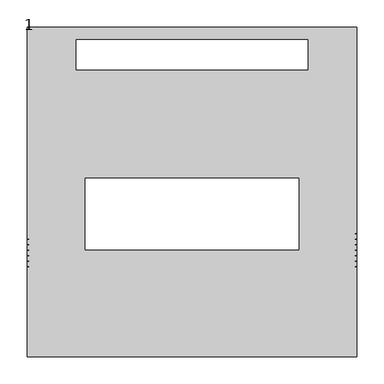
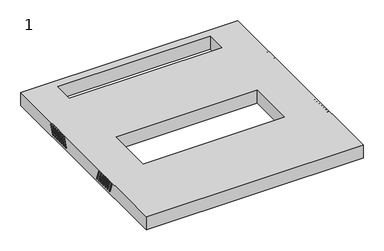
"""IFC4 building model written with IfcOpenShell, lengths in millimetres: proxy geometry, 1."""

from ifc_helpers import new_model, si_unit, frame, origin, place, context, project, spatial, polyline, circle_curve, source, transform, mapped, element, save
from ifc_brep_helpers import plane_surface, revolved_surface, advanced_brep


def proxy_1_6cf0ba76(model_context):
    return source(origin(), model_context, "Body", "AdvancedBrep", [
        advanced_brep(
        [(298.0, -135.8, 745.7479679), (298.0, -126.9074763, 721.3159597), (298.0, -123.1487058, 722.6840403), (298.0, -132.0412295, 747.1160484), (298.0, -125.8, 745.7479679), (298.0, -116.9074763, 721.3159597), (298.0, -113.1487058, 722.6840403), (298.0, -122.0412295, 747.1160484), (298.0, -115.8, 745.7479679), (298.0, -106.9074763, 721.3159597), (298.0, -103.1487058, 722.6840403), (298.0, -112.0412295, 747.1160484), (298.0, -105.8, 745.7479679), (298.0, -96.9074763, 721.3159597), (298.0, -93.1487058, 722.6840403), (298.0, -102.0412295, 747.1160484), (298.0, -95.8, 745.7479679), (298.0, -86.9074763, 721.3159597), (298.0, -83.1487058, 722.6840403), (298.0, -92.0412295, 747.1160484), (298.0, -85.8, 745.7479679), (298.0, -76.9074763, 721.3159597), (298.0, -73.1487058, 722.6840403), (298.0, -82.0412295, 747.1160484), (298.0, -75.8, 745.7479679), (298.0, -66.9074763, 721.3159597), (298.0, -63.1487058, 722.6840403), (298.0, -72.0412295, 747.1160484), (300.0, -132.0412295, 747.1160484), (300.0, -135.8, 745.7479679), (300.0, -123.1487058, 722.6840403), (300.0, -126.9074763, 721.3159597), (300.0, -122.0412295, 747.1160484), (300.0, -125.8, 745.7479679), (300.0, -113.1487058, 722.6840403), (300.0, -116.9074763, 721.3159597), (300.0, -112.0412295, 747.1160484), (300.0, -115.8, 745.7479679), (300.0, -103.1487058, 722.6840403), (300.0, -106.9074763, 721.3159597), (300.0, -102.0412295, 747.1160484), (300.0, -105.8, 745.7479679), (300.0, -93.1487058, 722.6840403), (300.0, -96.9074763, 721.3159597), (300.0, -92.0412295, 747.1160484), (300.0, -95.8, 745.7479679), (300.0, -83.1487058, 722.6840403), (300.0, -86.9074763, 721.3159597), (300.0, -82.0412295, 747.1160484), (300.0, -85.8, 745.7479679), (300.0, -73.1487058, 722.6840403), (300.0, -76.9074763, 721.3159597), (300.0, -72.0412295, 747.1160484), (300.0, -75.8, 745.7479679), (300.0, -63.1487058, 722.6840403), (300.0, -66.9074763, 721.3159597), (300.0, 300.0, 714.0), (300.0, -300.0, 714.0), (-300.0, -300.0, 714.0), (-300.0, 300.0, 714.0), (-211.0, 222.5, 714.0), (211.0, 222.5, 714.0), (211.0, 277.5, 714.0), (-211.0, 277.5, 714.0), (195.0, 25.0, 714.0), (-195.0, 25.0, 714.0), (-195.0, -105.0, 714.0), (195.0, -105.0, 714.0), (300.0, 300.0, 752.0), (-300.0, 300.0, 752.0), (-300.0, -300.0, 752.0), (300.0, -300.0, 752.0), (-211.0, 222.5, 752.0), (-211.0, 277.5, 752.0), (211.0, 277.5, 752.0), (211.0, 222.5, 752.0), (195.0, 25.0, 752.0), (195.0, -105.0, 752.0), (-195.0, -105.0, 752.0), (-195.0, 25.0, 752.0), (-300.0, -66.9074763, 721.3159597), (-300.0, -63.1487058, 722.6840403), (-300.0, -72.0412295, 747.1160484), (-300.0, -75.8, 745.7479679), (-300.0, -76.9074763, 721.3159597), (-300.0, -73.1487058, 722.6840403), (-300.0, -82.0412295, 747.1160484), (-300.0, -85.8, 745.7479679), (-300.0, -86.9074763, 721.3159597), (-300.0, -83.1487058, 722.6840403), (-300.0, -92.0412295, 747.1160484), (-300.0, -95.8, 745.7479679), (-300.0, -96.9074763, 721.3159597), (-300.0, -93.1487058, 722.6840403), (-300.0, -102.0412295, 747.1160484), (-300.0, -105.8, 745.7479679), (-300.0, -106.9074763, 721.3159597), (-300.0, -103.1487058, 722.6840403), (-300.0, -112.0412295, 747.1160484), (-300.0, -115.8, 745.7479679), (-300.0, -116.9074763, 721.3159597), (-300.0, -113.1487058, 722.6840403), (-300.0, -122.0412295, 747.1160484), (-300.0, -125.8, 745.7479679), (-300.0, -126.9074763, 721.3159597), (-300.0, -123.1487058, 722.6840403), (-300.0, -132.0412295, 747.1160484), (-300.0, -135.8, 745.7479679), (-300.0, 96.0, 745.7479679), (-300.0, 92.2412295, 747.1160484), (-300.0, 83.3487058, 722.6840403), (-300.0, 87.1074763, 721.3159597), (-300.0, 106.0, 745.7479679), (-300.0, 102.2412295, 747.1160484), (-300.0, 93.3487058, 722.6840403), (-300.0, 97.1074763, 721.3159597), (-300.0, 116.0, 745.7479679), (-300.0, 112.2412295, 747.1160484), (-300.0, 103.3487058, 722.6840403), (-300.0, 107.1074763, 721.3159597), (-300.0, 126.0, 745.7479679), (-300.0, 122.2412295, 747.1160484), (-300.0, 113.3487058, 722.6840403), (-300.0, 117.1074763, 721.3159597), (-300.0, 136.0, 745.7479679), (-300.0, 132.2412295, 747.1160484), (-300.0, 123.3487058, 722.6840403), (-300.0, 127.1074763, 721.3159597), (-300.0, 146.0, 745.7479679), (-300.0, 142.2412295, 747.1160484), (-300.0, 133.3487058, 722.6840403), (-300.0, 137.1074763, 721.3159597), (-300.0, 156.0, 745.7479679), (-300.0, 152.2412295, 747.1160484), (-300.0, 143.3487058, 722.6840403), (-300.0, 147.1074763, 721.3159597), (300.0, 152.2412295, 747.1160484), (300.0, 156.0, 745.7479679), (300.0, 147.1074763, 721.3159597), (300.0, 143.3487058, 722.6840403), (300.0, 142.2412295, 747.1160484), (300.0, 146.0, 745.7479679), (300.0, 137.1074763, 721.3159597), (300.0, 133.3487058, 722.6840403), (300.0, 132.2412295, 747.1160484), (300.0, 136.0, 745.7479679), (300.0, 127.1074763, 721.3159597), (300.0, 123.3487058, 722.6840403), (300.0, 122.2412295, 747.1160484), (300.0, 126.0, 745.7479679), (300.0, 117.1074763, 721.3159597), (300.0, 113.3487058, 722.6840403), (300.0, 112.2412295, 747.1160484), (300.0, 116.0, 745.7479679), (300.0, 107.1074763, 721.3159597), (300.0, 103.3487058, 722.6840403), (300.0, 102.2412295, 747.1160484), (300.0, 106.0, 745.7479679), (300.0, 97.1074763, 721.3159597), (300.0, 93.3487058, 722.6840403), (300.0, 92.2412295, 747.1160484), (300.0, 96.0, 745.7479679), (300.0, 87.1074763, 721.3159597), (300.0, 83.3487058, 722.6840403), (298.0, 156.0, 745.7479679), (298.0, 152.2412295, 747.1160484), (298.0, 143.3487058, 722.6840403), (298.0, 147.1074763, 721.3159597), (298.0, 146.0, 745.7479679), (298.0, 142.2412295, 747.1160484), (298.0, 133.3487058, 722.6840403), (298.0, 137.1074763, 721.3159597), (298.0, 136.0, 745.7479679), (298.0, 132.2412295, 747.1160484), (298.0, 123.3487058, 722.6840403), (298.0, 127.1074763, 721.3159597), (298.0, 126.0, 745.7479679), (298.0, 122.2412295, 747.1160484), (298.0, 113.3487058, 722.6840403), (298.0, 117.1074763, 721.3159597), (298.0, 116.0, 745.7479679), (298.0, 112.2412295, 747.1160484), (298.0, 103.3487058, 722.6840403), (298.0, 107.1074763, 721.3159597), (298.0, 106.0, 745.7479679), (298.0, 102.2412295, 747.1160484), (298.0, 93.3487058, 722.6840403), (298.0, 97.1074763, 721.3159597), (298.0, 96.0, 745.7479679), (298.0, 92.2412295, 747.1160484), (298.0, 83.3487058, 722.6840403), (298.0, 87.1074763, 721.3159597), (-298.0, -63.1487058, 722.6840403), (-298.0, -66.9074763, 721.3159597), (-298.0, -75.8, 745.7479679), (-298.0, -72.0412295, 747.1160484), (-298.0, -73.1487058, 722.6840403), (-298.0, -76.9074763, 721.3159597), (-298.0, -85.8, 745.7479679), (-298.0, -82.0412295, 747.1160484), (-298.0, -83.1487058, 722.6840403), (-298.0, -86.9074763, 721.3159597), (-298.0, -95.8, 745.7479679), (-298.0, -92.0412295, 747.1160484), (-298.0, -93.1487058, 722.6840403), (-298.0, -96.9074763, 721.3159597), (-298.0, -105.8, 745.7479679), (-298.0, -102.0412295, 747.1160484), (-298.0, -103.1487058, 722.6840403), (-298.0, -106.9074763, 721.3159597), (-298.0, -115.8, 745.7479679), (-298.0, -112.0412295, 747.1160484), (-298.0, -113.1487058, 722.6840403), (-298.0, -116.9074763, 721.3159597), (-298.0, -125.8, 745.7479679), (-298.0, -122.0412295, 747.1160484), (-298.0, -123.1487058, 722.6840403), (-298.0, -126.9074763, 721.3159597), (-298.0, -135.8, 745.7479679), (-298.0, -132.0412295, 747.1160484), (-298.0, 92.2412295, 747.1160484), (-298.0, 96.0, 745.7479679), (-298.0, 87.1074763, 721.3159597), (-298.0, 83.3487058, 722.6840403), (-298.0, 102.2412295, 747.1160484), (-298.0, 106.0, 745.7479679), (-298.0, 97.1074763, 721.3159597), (-298.0, 93.3487058, 722.6840403), (-298.0, 112.2412295, 747.1160484), (-298.0, 116.0, 745.7479679), (-298.0, 107.1074763, 721.3159597), (-298.0, 103.3487058, 722.6840403), (-298.0, 122.2412295, 747.1160484), (-298.0, 126.0, 745.7479679), (-298.0, 117.1074763, 721.3159597), (-298.0, 113.3487058, 722.6840403), (-298.0, 132.2412295, 747.1160484), (-298.0, 136.0, 745.7479679), (-298.0, 127.1074763, 721.3159597), (-298.0, 123.3487058, 722.6840403), (-298.0, 142.2412295, 747.1160484), (-298.0, 146.0, 745.7479679), (-298.0, 137.1074763, 721.3159597), (-298.0, 133.3487058, 722.6840403), (-298.0, 152.2412295, 747.1160484), (-298.0, 156.0, 745.7479679), (-298.0, 147.1074763, 721.3159597), (-298.0, 143.3487058, 722.6840403)],
        [
            (0, 1),
            (1, 2, circle_curve(frame((298.0, -125.028091, 722.0), z_axis=(1.0, 0.0, 0.0), x_axis=(0.0, -1.0, 0.0)), 2.0)),
            (2, 3),
            (3, 0, circle_curve(frame((298.0, -133.9206148, 746.4320081), z_axis=(1.0, 0.0, 0.0), x_axis=(0.0, -1.0, 0.0)), 2.0)),
            (4, 5),
            (5, 6, circle_curve(frame((298.0, -115.028091, 722.0), z_axis=(1.0, 0.0, 0.0), x_axis=(0.0, -1.0, 0.0)), 2.0)),
            (6, 7),
            (7, 4, circle_curve(frame((298.0, -123.9206148, 746.4320081), z_axis=(1.0, 0.0, 0.0), x_axis=(0.0, -1.0, 0.0)), 2.0)),
            (8, 9),
            (9, 10, circle_curve(frame((298.0, -105.028091, 722.0), z_axis=(1.0, 0.0, 0.0), x_axis=(0.0, -1.0, 0.0)), 2.0)),
            (10, 11),
            (11, 8, circle_curve(frame((298.0, -113.9206148, 746.4320081), z_axis=(1.0, 0.0, 0.0), x_axis=(0.0, -1.0, 0.0)), 2.0)),
            (12, 13),
            (13, 14, circle_curve(frame((298.0, -95.028091, 722.0), z_axis=(1.0, 0.0, 0.0), x_axis=(0.0, -1.0, 0.0)), 2.0)),
            (14, 15),
            (15, 12, circle_curve(frame((298.0, -103.9206148, 746.4320081), z_axis=(1.0, 0.0, 0.0), x_axis=(0.0, -1.0, 0.0)), 2.0)),
            (16, 17),
            (17, 18, circle_curve(frame((298.0, -85.028091, 722.0), z_axis=(1.0, 0.0, 0.0), x_axis=(0.0, -1.0, 0.0)), 2.0)),
            (18, 19),
            (19, 16, circle_curve(frame((298.0, -93.9206148, 746.4320081), z_axis=(1.0, 0.0, 0.0), x_axis=(0.0, -1.0, 0.0)), 2.0)),
            (20, 21),
            (21, 22, circle_curve(frame((298.0, -75.028091, 722.0), z_axis=(1.0, 0.0, 0.0), x_axis=(0.0, -1.0, 0.0)), 2.0)),
            (22, 23),
            (23, 20, circle_curve(frame((298.0, -83.9206148, 746.4320081), z_axis=(1.0, 0.0, 0.0), x_axis=(0.0, -1.0, 0.0)), 2.0)),
            (24, 25),
            (25, 26, circle_curve(frame((298.0, -65.028091, 722.0), z_axis=(1.0, 0.0, 0.0), x_axis=(0.0, -1.0, 0.0)), 2.0)),
            (26, 27),
            (27, 24, circle_curve(frame((298.0, -73.9206148, 746.4320081), z_axis=(1.0, 0.0, 0.0), x_axis=(0.0, -1.0, 0.0)), 2.0)),
            (3, 28),
            (28, 29, circle_curve(frame((300.0, -133.9206148, 746.4320081), z_axis=(1.0, 0.0, 0.0), x_axis=(0.0, -1.0, 0.0)), 2.0)),
            (29, 0),
            (2, 30),
            (30, 28),
            (1, 31),
            (31, 30, circle_curve(frame((300.0, -125.028091, 722.0), z_axis=(1.0, 0.0, 0.0), x_axis=(0.0, -1.0, 0.0)), 2.0)),
            (29, 31),
            (7, 32),
            (32, 33, circle_curve(frame((300.0, -123.9206148, 746.4320081), z_axis=(1.0, 0.0, 0.0), x_axis=(0.0, -1.0, 0.0)), 2.0)),
            (33, 4),
            (6, 34),
            (34, 32),
            (5, 35),
            (35, 34, circle_curve(frame((300.0, -115.028091, 722.0), z_axis=(1.0, 0.0, 0.0), x_axis=(0.0, -1.0, 0.0)), 2.0)),
            (33, 35),
            (11, 36),
            (36, 37, circle_curve(frame((300.0, -113.9206148, 746.4320081), z_axis=(1.0, 0.0, 0.0), x_axis=(0.0, -1.0, 0.0)), 2.0)),
            (37, 8),
            (10, 38),
            (38, 36),
            (9, 39),
            (39, 38, circle_curve(frame((300.0, -105.028091, 722.0), z_axis=(1.0, 0.0, 0.0), x_axis=(0.0, -1.0, 0.0)), 2.0)),
            (37, 39),
            (15, 40),
            (40, 41, circle_curve(frame((300.0, -103.9206148, 746.4320081), z_axis=(1.0, 0.0, 0.0), x_axis=(0.0, -1.0, 0.0)), 2.0)),
            (41, 12),
            (14, 42),
            (42, 40),
            (13, 43),
            (43, 42, circle_curve(frame((300.0, -95.028091, 722.0), z_axis=(1.0, 0.0, 0.0), x_axis=(0.0, -1.0, 0.0)), 2.0)),
            (41, 43),
            (19, 44),
            (44, 45, circle_curve(frame((300.0, -93.9206148, 746.4320081), z_axis=(1.0, 0.0, 0.0), x_axis=(0.0, -1.0, 0.0)), 2.0)),
            (45, 16),
            (18, 46),
            (46, 44),
            (17, 47),
            (47, 46, circle_curve(frame((300.0, -85.028091, 722.0), z_axis=(1.0, 0.0, 0.0), x_axis=(0.0, -1.0, 0.0)), 2.0)),
            (45, 47),
            (23, 48),
            (48, 49, circle_curve(frame((300.0, -83.9206148, 746.4320081), z_axis=(1.0, 0.0, 0.0), x_axis=(0.0, -1.0, 0.0)), 2.0)),
            (49, 20),
            (22, 50),
            (50, 48),
            (21, 51),
            (51, 50, circle_curve(frame((300.0, -75.028091, 722.0), z_axis=(1.0, 0.0, 0.0), x_axis=(0.0, -1.0, 0.0)), 2.0)),
            (49, 51),
            (27, 52),
            (52, 53, circle_curve(frame((300.0, -73.9206148, 746.4320081), z_axis=(1.0, 0.0, 0.0), x_axis=(0.0, -1.0, 0.0)), 2.0)),
            (53, 24),
            (26, 54),
            (54, 52),
            (25, 55),
            (55, 54, circle_curve(frame((300.0, -65.028091, 722.0), z_axis=(1.0, 0.0, 0.0), x_axis=(0.0, -1.0, 0.0)), 2.0)),
            (53, 55),
            (56, 57),
            (57, 58),
            (58, 59),
            (59, 56),
            (60, 61),
            (61, 62),
            (62, 63),
            (63, 60),
            (64, 65),
            (65, 66),
            (66, 67),
            (67, 64),
            (68, 69),
            (69, 70),
            (70, 71),
            (71, 68),
            (72, 73),
            (73, 74),
            (74, 75),
            (75, 72),
            (76, 77),
            (77, 78),
            (78, 79),
            (79, 76),
            (59, 69),
            (68, 56),
            (58, 70),
            (80, 81, circle_curve(frame((-300.0, -65.028091, 722.0), z_axis=(1.0, 0.0, 0.0), x_axis=(0.0, 1.0, 0.0)), 2.0)),
            (81, 82),
            (82, 83, circle_curve(frame((-300.0, -73.9206148, 746.4320081), z_axis=(1.0, 0.0, 0.0), x_axis=(0.0, 1.0, 0.0)), 2.0)),
            (83, 80),
            (84, 85, circle_curve(frame((-300.0, -75.028091, 722.0), z_axis=(1.0, 0.0, 0.0), x_axis=(0.0, 1.0, 0.0)), 2.0)),
            (85, 86),
            (86, 87, circle_curve(frame((-300.0, -83.9206148, 746.4320081), z_axis=(1.0, 0.0, 0.0), x_axis=(0.0, 1.0, 0.0)), 2.0)),
            (87, 84),
            (88, 89, circle_curve(frame((-300.0, -85.028091, 722.0), z_axis=(1.0, 0.0, 0.0), x_axis=(0.0, 1.0, 0.0)), 2.0)),
            (89, 90),
            (90, 91, circle_curve(frame((-300.0, -93.9206148, 746.4320081), z_axis=(1.0, 0.0, 0.0), x_axis=(0.0, 1.0, 0.0)), 2.0)),
            (91, 88),
            (92, 93, circle_curve(frame((-300.0, -95.028091, 722.0), z_axis=(1.0, 0.0, 0.0), x_axis=(0.0, 1.0, 0.0)), 2.0)),
            (93, 94),
            (94, 95, circle_curve(frame((-300.0, -103.9206148, 746.4320081), z_axis=(1.0, 0.0, 0.0), x_axis=(0.0, 1.0, 0.0)), 2.0)),
            (95, 92),
            (96, 97, circle_curve(frame((-300.0, -105.028091, 722.0), z_axis=(1.0, 0.0, 0.0), x_axis=(0.0, 1.0, 0.0)), 2.0)),
            (97, 98),
            (98, 99, circle_curve(frame((-300.0, -113.9206148, 746.4320081), z_axis=(1.0, 0.0, 0.0), x_axis=(0.0, 1.0, 0.0)), 2.0)),
            (99, 96),
            (100, 101, circle_curve(frame((-300.0, -115.028091, 722.0), z_axis=(1.0, 0.0, 0.0), x_axis=(0.0, 1.0, 0.0)), 2.0)),
            (101, 102),
            (102, 103, circle_curve(frame((-300.0, -123.9206148, 746.4320081), z_axis=(1.0, 0.0, 0.0), x_axis=(0.0, 1.0, 0.0)), 2.0)),
            (103, 100),
            (104, 105, circle_curve(frame((-300.0, -125.028091, 722.0), z_axis=(1.0, 0.0, 0.0), x_axis=(0.0, 1.0, 0.0)), 2.0)),
            (105, 106),
            (106, 107, circle_curve(frame((-300.0, -133.9206148, 746.4320081), z_axis=(1.0, 0.0, 0.0), x_axis=(0.0, 1.0, 0.0)), 2.0)),
            (107, 104),
            (108, 109, circle_curve(frame((-300.0, 94.1206148, 746.4320081), z_axis=(1.0, 0.0, 0.0), x_axis=(0.0, 1.0, 0.0)), 2.0)),
            (109, 110),
            (110, 111, circle_curve(frame((-300.0, 85.228091, 722.0), z_axis=(1.0, 0.0, 0.0), x_axis=(0.0, 1.0, 0.0)), 2.0)),
            (111, 108),
            (112, 113, circle_curve(frame((-300.0, 104.1206148, 746.4320081), z_axis=(1.0, 0.0, 0.0), x_axis=(0.0, 1.0, 0.0)), 2.0)),
            (113, 114),
            (114, 115, circle_curve(frame((-300.0, 95.228091, 722.0), z_axis=(1.0, 0.0, 0.0), x_axis=(0.0, 1.0, 0.0)), 2.0)),
            (115, 112),
            (116, 117, circle_curve(frame((-300.0, 114.1206148, 746.4320081), z_axis=(1.0, 0.0, 0.0), x_axis=(0.0, 1.0, 0.0)), 2.0)),
            (117, 118),
            (118, 119, circle_curve(frame((-300.0, 105.228091, 722.0), z_axis=(1.0, 0.0, 0.0), x_axis=(0.0, 1.0, 0.0)), 2.0)),
            (119, 116),
            (120, 121, circle_curve(frame((-300.0, 124.1206148, 746.4320081), z_axis=(1.0, 0.0, 0.0), x_axis=(0.0, 1.0, 0.0)), 2.0)),
            (121, 122),
            (122, 123, circle_curve(frame((-300.0, 115.228091, 722.0), z_axis=(1.0, 0.0, 0.0), x_axis=(0.0, 1.0, 0.0)), 2.0)),
            (123, 120),
            (124, 125, circle_curve(frame((-300.0, 134.1206148, 746.4320081), z_axis=(1.0, 0.0, 0.0), x_axis=(0.0, 1.0, 0.0)), 2.0)),
            (125, 126),
            (126, 127, circle_curve(frame((-300.0, 125.228091, 722.0), z_axis=(1.0, 0.0, 0.0), x_axis=(0.0, 1.0, 0.0)), 2.0)),
            (127, 124),
            (128, 129, circle_curve(frame((-300.0, 144.1206148, 746.4320081), z_axis=(1.0, 0.0, 0.0), x_axis=(0.0, 1.0, 0.0)), 2.0)),
            (129, 130),
            (130, 131, circle_curve(frame((-300.0, 135.228091, 722.0), z_axis=(1.0, 0.0, 0.0), x_axis=(0.0, 1.0, 0.0)), 2.0)),
            (131, 128),
            (132, 133, circle_curve(frame((-300.0, 154.1206148, 746.4320081), z_axis=(1.0, 0.0, 0.0), x_axis=(0.0, 1.0, 0.0)), 2.0)),
            (133, 134),
            (134, 135, circle_curve(frame((-300.0, 145.228091, 722.0), z_axis=(1.0, 0.0, 0.0), x_axis=(0.0, 1.0, 0.0)), 2.0)),
            (135, 132),
            (57, 71),
            (136, 137, circle_curve(frame((300.0, 154.1206148, 746.4320081), z_axis=(-1.0, 0.0, 0.0), x_axis=(0.0, 1.0, 0.0)), 2.0)),
            (137, 138),
            (138, 139, circle_curve(frame((300.0, 145.228091, 722.0), z_axis=(-1.0, 0.0, 0.0), x_axis=(0.0, 1.0, 0.0)), 2.0)),
            (139, 136),
            (140, 141, circle_curve(frame((300.0, 144.1206148, 746.4320081), z_axis=(-1.0, 0.0, 0.0), x_axis=(0.0, 1.0, 0.0)), 2.0)),
            (141, 142),
            (142, 143, circle_curve(frame((300.0, 135.228091, 722.0), z_axis=(-1.0, 0.0, 0.0), x_axis=(0.0, 1.0, 0.0)), 2.0)),
            (143, 140),
            (144, 145, circle_curve(frame((300.0, 134.1206148, 746.4320081), z_axis=(-1.0, 0.0, 0.0), x_axis=(0.0, 1.0, 0.0)), 2.0)),
            (145, 146),
            (146, 147, circle_curve(frame((300.0, 125.228091, 722.0), z_axis=(-1.0, 0.0, 0.0), x_axis=(0.0, 1.0, 0.0)), 2.0)),
            (147, 144),
            (148, 149, circle_curve(frame((300.0, 124.1206148, 746.4320081), z_axis=(-1.0, 0.0, 0.0), x_axis=(0.0, 1.0, 0.0)), 2.0)),
            (149, 150),
            (150, 151, circle_curve(frame((300.0, 115.228091, 722.0), z_axis=(-1.0, 0.0, 0.0), x_axis=(0.0, 1.0, 0.0)), 2.0)),
            (151, 148),
            (152, 153, circle_curve(frame((300.0, 114.1206148, 746.4320081), z_axis=(-1.0, 0.0, 0.0), x_axis=(0.0, 1.0, 0.0)), 2.0)),
            (153, 154),
            (154, 155, circle_curve(frame((300.0, 105.228091, 722.0), z_axis=(-1.0, 0.0, 0.0), x_axis=(0.0, 1.0, 0.0)), 2.0)),
            (155, 152),
            (156, 157, circle_curve(frame((300.0, 104.1206148, 746.4320081), z_axis=(-1.0, 0.0, 0.0), x_axis=(0.0, 1.0, 0.0)), 2.0)),
            (157, 158),
            (158, 159, circle_curve(frame((300.0, 95.228091, 722.0), z_axis=(-1.0, 0.0, 0.0), x_axis=(0.0, 1.0, 0.0)), 2.0)),
            (159, 156),
            (160, 161, circle_curve(frame((300.0, 94.1206148, 746.4320081), z_axis=(-1.0, 0.0, 0.0), x_axis=(0.0, 1.0, 0.0)), 2.0)),
            (161, 162),
            (162, 163, circle_curve(frame((300.0, 85.228091, 722.0), z_axis=(-1.0, 0.0, 0.0), x_axis=(0.0, 1.0, 0.0)), 2.0)),
            (163, 160),
            (63, 73),
            (72, 60),
            (62, 74),
            (61, 75),
            (67, 77),
            (76, 64),
            (66, 78),
            (65, 79),
            (164, 165, circle_curve(frame((298.0, 154.1206148, 746.4320081), z_axis=(1.0, 0.0, 0.0), x_axis=(0.0, 1.0, 0.0)), 2.0)),
            (165, 166),
            (166, 167, circle_curve(frame((298.0, 145.228091, 722.0), z_axis=(1.0, 0.0, 0.0), x_axis=(0.0, 1.0, 0.0)), 2.0)),
            (167, 164),
            (168, 169, circle_curve(frame((298.0, 144.1206148, 746.4320081), z_axis=(1.0, 0.0, 0.0), x_axis=(0.0, 1.0, 0.0)), 2.0)),
            (169, 170),
            (170, 171, circle_curve(frame((298.0, 135.228091, 722.0), z_axis=(1.0, 0.0, 0.0), x_axis=(0.0, 1.0, 0.0)), 2.0)),
            (171, 168),
            (172, 173, circle_curve(frame((298.0, 134.1206148, 746.4320081), z_axis=(1.0, 0.0, 0.0), x_axis=(0.0, 1.0, 0.0)), 2.0)),
            (173, 174),
            (174, 175, circle_curve(frame((298.0, 125.228091, 722.0), z_axis=(1.0, 0.0, 0.0), x_axis=(0.0, 1.0, 0.0)), 2.0)),
            (175, 172),
            (176, 177, circle_curve(frame((298.0, 124.1206148, 746.4320081), z_axis=(1.0, 0.0, 0.0), x_axis=(0.0, 1.0, 0.0)), 2.0)),
            (177, 178),
            (178, 179, circle_curve(frame((298.0, 115.228091, 722.0), z_axis=(1.0, 0.0, 0.0), x_axis=(0.0, 1.0, 0.0)), 2.0)),
            (179, 176),
            (180, 181, circle_curve(frame((298.0, 114.1206148, 746.4320081), z_axis=(1.0, 0.0, 0.0), x_axis=(0.0, 1.0, 0.0)), 2.0)),
            (181, 182),
            (182, 183, circle_curve(frame((298.0, 105.228091, 722.0), z_axis=(1.0, 0.0, 0.0), x_axis=(0.0, 1.0, 0.0)), 2.0)),
            (183, 180),
            (184, 185, circle_curve(frame((298.0, 104.1206148, 746.4320081), z_axis=(1.0, 0.0, 0.0), x_axis=(0.0, 1.0, 0.0)), 2.0)),
            (185, 186),
            (186, 187, circle_curve(frame((298.0, 95.228091, 722.0), z_axis=(1.0, 0.0, 0.0), x_axis=(0.0, 1.0, 0.0)), 2.0)),
            (187, 184),
            (188, 189, circle_curve(frame((298.0, 94.1206148, 746.4320081), z_axis=(1.0, 0.0, 0.0), x_axis=(0.0, 1.0, 0.0)), 2.0)),
            (189, 190),
            (190, 191, circle_curve(frame((298.0, 85.228091, 722.0), z_axis=(1.0, 0.0, 0.0), x_axis=(0.0, 1.0, 0.0)), 2.0)),
            (191, 188),
            (164, 137),
            (136, 165),
            (139, 166),
            (138, 167),
            (168, 141),
            (140, 169),
            (143, 170),
            (142, 171),
            (172, 145),
            (144, 173),
            (147, 174),
            (146, 175),
            (176, 149),
            (148, 177),
            (151, 178),
            (150, 179),
            (180, 153),
            (152, 181),
            (155, 182),
            (154, 183),
            (184, 157),
            (156, 185),
            (159, 186),
            (158, 187),
            (188, 161),
            (160, 189),
            (163, 190),
            (162, 191),
            (192, 193, circle_curve(frame((-298.0, -65.028091, 722.0), z_axis=(-1.0, 0.0, 0.0), x_axis=(0.0, 1.0, 0.0)), 2.0)),
            (193, 194),
            (194, 195, circle_curve(frame((-298.0, -73.9206148, 746.4320081), z_axis=(-1.0, 0.0, 0.0), x_axis=(0.0, 1.0, 0.0)), 2.0)),
            (195, 192),
            (196, 197, circle_curve(frame((-298.0, -75.028091, 722.0), z_axis=(-1.0, 0.0, 0.0), x_axis=(0.0, 1.0, 0.0)), 2.0)),
            (197, 198),
            (198, 199, circle_curve(frame((-298.0, -83.9206148, 746.4320081), z_axis=(-1.0, 0.0, 0.0), x_axis=(0.0, 1.0, 0.0)), 2.0)),
            (199, 196),
            (200, 201, circle_curve(frame((-298.0, -85.028091, 722.0), z_axis=(-1.0, 0.0, 0.0), x_axis=(0.0, 1.0, 0.0)), 2.0)),
            (201, 202),
            (202, 203, circle_curve(frame((-298.0, -93.9206148, 746.4320081), z_axis=(-1.0, 0.0, 0.0), x_axis=(0.0, 1.0, 0.0)), 2.0)),
            (203, 200),
            (204, 205, circle_curve(frame((-298.0, -95.028091, 722.0), z_axis=(-1.0, 0.0, 0.0), x_axis=(0.0, 1.0, 0.0)), 2.0)),
            (205, 206),
            (206, 207, circle_curve(frame((-298.0, -103.9206148, 746.4320081), z_axis=(-1.0, 0.0, 0.0), x_axis=(0.0, 1.0, 0.0)), 2.0)),
            (207, 204),
            (208, 209, circle_curve(frame((-298.0, -105.028091, 722.0), z_axis=(-1.0, 0.0, 0.0), x_axis=(0.0, 1.0, 0.0)), 2.0)),
            (209, 210),
            (210, 211, circle_curve(frame((-298.0, -113.9206148, 746.4320081), z_axis=(-1.0, 0.0, 0.0), x_axis=(0.0, 1.0, 0.0)), 2.0)),
            (211, 208),
            (212, 213, circle_curve(frame((-298.0, -115.028091, 722.0), z_axis=(-1.0, 0.0, 0.0), x_axis=(0.0, 1.0, 0.0)), 2.0)),
            (213, 214),
            (214, 215, circle_curve(frame((-298.0, -123.9206148, 746.4320081), z_axis=(-1.0, 0.0, 0.0), x_axis=(0.0, 1.0, 0.0)), 2.0)),
            (215, 212),
            (216, 217, circle_curve(frame((-298.0, -125.028091, 722.0), z_axis=(-1.0, 0.0, 0.0), x_axis=(0.0, 1.0, 0.0)), 2.0)),
            (217, 218),
            (218, 219, circle_curve(frame((-298.0, -133.9206148, 746.4320081), z_axis=(-1.0, 0.0, 0.0), x_axis=(0.0, 1.0, 0.0)), 2.0)),
            (219, 216),
            (192, 81),
            (80, 193),
            (83, 194),
            (82, 195),
            (196, 85),
            (84, 197),
            (87, 198),
            (86, 199),
            (200, 89),
            (88, 201),
            (91, 202),
            (90, 203),
            (204, 93),
            (92, 205),
            (95, 206),
            (94, 207),
            (208, 97),
            (96, 209),
            (99, 210),
            (98, 211),
            (212, 101),
            (100, 213),
            (103, 214),
            (102, 215),
            (216, 105),
            (104, 217),
            (107, 218),
            (106, 219),
            (220, 221, circle_curve(frame((-298.0, 94.1206148, 746.4320081), z_axis=(-1.0, 0.0, 0.0), x_axis=(0.0, 1.0, 0.0)), 2.0)),
            (221, 222),
            (222, 223, circle_curve(frame((-298.0, 85.228091, 722.0), z_axis=(-1.0, 0.0, 0.0), x_axis=(0.0, 1.0, 0.0)), 2.0)),
            (223, 220),
            (224, 225, circle_curve(frame((-298.0, 104.1206148, 746.4320081), z_axis=(-1.0, 0.0, 0.0), x_axis=(0.0, 1.0, 0.0)), 2.0)),
            (225, 226),
            (226, 227, circle_curve(frame((-298.0, 95.228091, 722.0), z_axis=(-1.0, 0.0, 0.0), x_axis=(0.0, 1.0, 0.0)), 2.0)),
            (227, 224),
            (228, 229, circle_curve(frame((-298.0, 114.1206148, 746.4320081), z_axis=(-1.0, 0.0, 0.0), x_axis=(0.0, 1.0, 0.0)), 2.0)),
            (229, 230),
            (230, 231, circle_curve(frame((-298.0, 105.228091, 722.0), z_axis=(-1.0, 0.0, 0.0), x_axis=(0.0, 1.0, 0.0)), 2.0)),
            (231, 228),
            (232, 233, circle_curve(frame((-298.0, 124.1206148, 746.4320081), z_axis=(-1.0, 0.0, 0.0), x_axis=(0.0, 1.0, 0.0)), 2.0)),
            (233, 234),
            (234, 235, circle_curve(frame((-298.0, 115.228091, 722.0), z_axis=(-1.0, 0.0, 0.0), x_axis=(0.0, 1.0, 0.0)), 2.0)),
            (235, 232),
            (236, 237, circle_curve(frame((-298.0, 134.1206148, 746.4320081), z_axis=(-1.0, 0.0, 0.0), x_axis=(0.0, 1.0, 0.0)), 2.0)),
            (237, 238),
            (238, 239, circle_curve(frame((-298.0, 125.228091, 722.0), z_axis=(-1.0, 0.0, 0.0), x_axis=(0.0, 1.0, 0.0)), 2.0)),
            (239, 236),
            (240, 241, circle_curve(frame((-298.0, 144.1206148, 746.4320081), z_axis=(-1.0, 0.0, 0.0), x_axis=(0.0, 1.0, 0.0)), 2.0)),
            (241, 242),
            (242, 243, circle_curve(frame((-298.0, 135.228091, 722.0), z_axis=(-1.0, 0.0, 0.0), x_axis=(0.0, 1.0, 0.0)), 2.0)),
            (243, 240),
            (244, 245, circle_curve(frame((-298.0, 154.1206148, 746.4320081), z_axis=(-1.0, 0.0, 0.0), x_axis=(0.0, 1.0, 0.0)), 2.0)),
            (245, 246),
            (246, 247, circle_curve(frame((-298.0, 145.228091, 722.0), z_axis=(-1.0, 0.0, 0.0), x_axis=(0.0, 1.0, 0.0)), 2.0)),
            (247, 244),
            (220, 109),
            (108, 221),
            (111, 222),
            (110, 223),
            (224, 113),
            (112, 225),
            (115, 226),
            (114, 227),
            (228, 117),
            (116, 229),
            (119, 230),
            (118, 231),
            (232, 121),
            (120, 233),
            (123, 234),
            (122, 235),
            (236, 125),
            (124, 237),
            (127, 238),
            (126, 239),
            (240, 129),
            (128, 241),
            (131, 242),
            (130, 243),
            (244, 133),
            (132, 245),
            (135, 246),
            (134, 247),
        ],
        [
            plane_surface(frame((298.0, -126.9074763, 721.3159597), z_axis=(1.0000000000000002, 0.0, 0.0), x_axis=(0.0, -0.3420201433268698, 0.9396926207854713))),
            revolved_surface(polyline([(300.0, -135.9206148, 746.4320081), (298.0, -135.9206148, 746.4320081)]), (298.0, -133.9206148, 746.4320081), (1.0, 0.0, 0.0)),
            plane_surface(frame((300.0, -123.1487058, 722.6840403), z_axis=(0.0, -0.9396926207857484, -0.3420201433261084), x_axis=(-1.0, 0.0, 0.0))),
            revolved_surface(polyline([(300.0, -127.028091, 722.0), (298.0, -127.028091, 722.0)]), (298.0, -125.028091, 722.0), (1.0, 0.0, 0.0)),
            plane_surface(frame((300.0, -135.8, 745.7479679), z_axis=(0.0, 0.9396926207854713, 0.3420201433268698), x_axis=(-1.0, 0.0, 0.0))),
            revolved_surface(polyline([(300.0, -125.9206148, 746.4320081), (298.0, -125.9206148, 746.4320081)]), (300.0, -123.9206148, 746.4320081), (1.0, 0.0, 0.0)),
            plane_surface(frame((300.0, -113.1487058, 722.6840403), z_axis=(0.0, -0.9396926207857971, -0.3420201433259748), x_axis=(-1.0, 0.0, 0.0))),
            revolved_surface(polyline([(300.0, -117.028091, 722.0), (298.0, -117.028091, 722.0)]), (300.0, -115.028091, 722.0), (1.0, 0.0, 0.0)),
            plane_surface(frame((300.0, -125.8, 745.7479679), z_axis=(0.0, 0.9396926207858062, 0.34202014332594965), x_axis=(-1.0, 0.0, 0.0))),
            revolved_surface(polyline([(300.0, -115.9206148, 746.4320081), (298.0, -115.9206148, 746.4320081)]), (300.0, -113.9206148, 746.4320081), (1.0, 0.0, 0.0)),
            plane_surface(frame((300.0, -103.1487058, 722.6840403), z_axis=(0.0, -0.9396926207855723, -0.3420201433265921), x_axis=(-1.0, 0.0, 0.0))),
            revolved_surface(polyline([(300.0, -107.028091, 722.0), (298.0, -107.028091, 722.0)]), (300.0, -105.028091, 722.0), (1.0, 0.0, 0.0)),
            plane_surface(frame((300.0, -115.8, 745.7479679), z_axis=(0.0, 0.9396926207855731, 0.3420201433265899), x_axis=(-1.0, 0.0, 0.0))),
            revolved_surface(polyline([(300.0, -105.9206148, 746.4320081), (298.0, -105.9206148, 746.4320081)]), (300.0, -103.9206148, 746.4320081), (1.0, 0.0, 0.0)),
            plane_surface(frame((300.0, -93.1487058, 722.6840403), z_axis=(0.0, -0.9396926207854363, -0.34202014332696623), x_axis=(-1.0, 0.0, 0.0))),
            revolved_surface(polyline([(300.0, -97.028091, 722.0), (298.0, -97.028091, 722.0)]), (300.0, -95.028091, 722.0), (1.0, 0.0, 0.0)),
            plane_surface(frame((300.0, -105.8, 745.7479679), z_axis=(0.0, 0.9396926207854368, 0.34202014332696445), x_axis=(-1.0, 0.0, 0.0))),
            revolved_surface(polyline([(300.0, -95.9206148, 746.4320081), (298.0, -95.9206148, 746.4320081)]), (300.0, -93.9206148, 746.4320081), (1.0, 0.0, 0.0)),
            plane_surface(frame((300.0, -83.1487058, 722.6840403), z_axis=(0.0, -0.9396926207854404, -0.3420201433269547), x_axis=(-1.0, 0.0, 0.0))),
            revolved_surface(polyline([(300.0, -87.028091, 722.0), (298.0, -87.028091, 722.0)]), (300.0, -85.028091, 722.0), (1.0, 0.0, 0.0)),
            plane_surface(frame((300.0, -95.8, 745.7479679), z_axis=(0.0, 0.9396926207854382, 0.3420201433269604), x_axis=(-1.0, 0.0, 0.0))),
            revolved_surface(polyline([(300.0, -85.9206148, 746.4320081), (298.0, -85.9206148, 746.4320081)]), (300.0, -83.9206148, 746.4320081), (1.0, 0.0, 0.0)),
            plane_surface(frame((300.0, -73.1487058, 722.6840403), z_axis=(0.0, -0.9396926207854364, -0.3420201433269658), x_axis=(-1.0, 0.0, 0.0))),
            revolved_surface(polyline([(300.0, -77.028091, 722.0), (298.0, -77.028091, 722.0)]), (300.0, -75.028091, 722.0), (1.0, 0.0, 0.0)),
            plane_surface(frame((300.0, -85.8, 745.7479679), z_axis=(0.0, 0.9396926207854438, 0.3420201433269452), x_axis=(-1.0, 0.0, 0.0))),
            revolved_surface(polyline([(300.0, -75.9206148, 746.4320081), (298.0, -75.9206148, 746.4320081)]), (300.0, -73.9206148, 746.4320081), (1.0, 0.0, 0.0)),
            plane_surface(frame((300.0, -63.1487058, 722.6840403), z_axis=(0.0, -0.9396926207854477, -0.3420201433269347), x_axis=(-1.0, 0.0, 0.0))),
            revolved_surface(polyline([(300.0, -67.028091, 722.0), (298.0, -67.028091, 722.0)]), (300.0, -65.028091, 722.0), (1.0, 0.0, 0.0)),
            plane_surface(frame((300.0, -75.8, 745.7479679), z_axis=(0.0, 0.9396926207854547, 0.3420201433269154), x_axis=(-1.0, 0.0, 0.0))),
            plane_surface(frame((-300.0, 300.0, 714.0), z_axis=(0.0, 0.0, -1.0), x_axis=(1.0, 0.0, 0.0))),
            plane_surface(frame((-300.0, 300.0, 752.0), z_axis=(0.0, 0.0, 1.0), x_axis=(-1.0, 0.0, 0.0))),
            plane_surface(frame((300.0, 300.0, 752.0), z_axis=(0.0, 1.0, 0.0), x_axis=(0.0, 0.0, -1.0))),
            plane_surface(frame((-300.0, 300.0, 752.0), z_axis=(-1.0, 0.0, 0.0), x_axis=(0.0, 0.0, -1.0))),
            plane_surface(frame((-300.0, -300.0, 752.0), z_axis=(0.0, -1.0, 0.0), x_axis=(0.0, 0.0, -1.0))),
            plane_surface(frame((300.0, -300.0, 752.0), z_axis=(1.0, 0.0, 0.0), x_axis=(0.0, 0.0, -1.0))),
            plane_surface(frame((-211.0, 222.5, 752.0), z_axis=(1.0, 0.0, 0.0), x_axis=(0.0, 0.0, -1.0))),
            plane_surface(frame((-211.0, 277.5, 752.0), z_axis=(0.0, -1.0, 0.0), x_axis=(0.0, 0.0, -1.0))),
            plane_surface(frame((211.0, 277.5, 752.0), z_axis=(-1.0, 0.0, 0.0), x_axis=(0.0, 0.0, -1.0))),
            plane_surface(frame((211.0, 222.5, 752.0), z_axis=(0.0, 1.0, 0.0), x_axis=(0.0, 0.0, -1.0))),
            plane_surface(frame((195.0, 25.0, 752.0), z_axis=(-1.0, 0.0, 0.0), x_axis=(0.0, 0.0, -1.0))),
            plane_surface(frame((195.0, -105.0, 752.0), z_axis=(0.0, 1.0, 0.0), x_axis=(0.0, 0.0, -1.0))),
            plane_surface(frame((-195.0, -105.0, 752.0), z_axis=(1.0, 0.0, 0.0), x_axis=(0.0, 0.0, -1.0))),
            plane_surface(frame((-195.0, 25.0, 752.0), z_axis=(0.0, -1.0, 0.0), x_axis=(0.0, 0.0, -1.0))),
            plane_surface(frame((298.0, 156.1206148, 746.4320081), z_axis=(1.0, 0.0, 0.0), x_axis=(0.0, 0.0, -1.0))),
            revolved_surface(polyline([(300.0, 156.1206148, 746.4320081), (298.0, 156.1206148, 746.4320081)]), (298.0, 154.1206148, 746.4320081), (1.0, 0.0, 0.0)),
            plane_surface(frame((300.0, 152.2412295, 747.1160484), z_axis=(0.0, 0.9396926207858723, -0.34202014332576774), x_axis=(-1.0, 0.0, 0.0))),
            revolved_surface(polyline([(300.0, 147.228091, 722.0), (298.0, 147.228091, 722.0)]), (298.0, 145.228091, 722.0), (1.0, 0.0, 0.0)),
            plane_surface(frame((300.0, 147.1074763, 721.3159597), z_axis=(0.0, -0.9396926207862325, 0.3420201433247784), x_axis=(-1.0, 0.0, 0.0))),
            revolved_surface(polyline([(300.0, 146.1206148, 746.4320081), (298.0, 146.1206148, 746.4320081)]), (300.0, 144.1206148, 746.4320081), (1.0, 0.0, 0.0)),
            plane_surface(frame((300.0, 142.2412295, 747.1160484), z_axis=(0.0, 0.9396926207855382, -0.34202014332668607), x_axis=(-1.0, 0.0, 0.0))),
            revolved_surface(polyline([(300.0, 137.228091, 722.0), (298.0, 137.228091, 722.0)]), (300.0, 135.228091, 722.0), (1.0, 0.0, 0.0)),
            plane_surface(frame((300.0, 137.1074763, 721.3159597), z_axis=(0.0, -0.939692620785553, 0.34202014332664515), x_axis=(-1.0, 0.0, 0.0))),
            revolved_surface(polyline([(300.0, 136.1206148, 746.4320081), (298.0, 136.1206148, 746.4320081)]), (300.0, 134.1206148, 746.4320081), (1.0, 0.0, 0.0)),
            plane_surface(frame((300.0, 132.2412295, 747.1160484), z_axis=(0.0, 0.9396926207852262, -0.3420201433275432), x_axis=(-1.0, 0.0, 0.0))),
            revolved_surface(polyline([(300.0, 127.228091, 722.0), (298.0, 127.228091, 722.0)]), (300.0, 125.228091, 722.0), (1.0, 0.0, 0.0)),
            plane_surface(frame((300.0, 127.1074763, 721.3159597), z_axis=(0.0, -0.9396926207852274, 0.3420201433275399), x_axis=(-1.0, 0.0, 0.0))),
            revolved_surface(polyline([(300.0, 126.1206148, 746.4320081), (298.0, 126.1206148, 746.4320081)]), (300.0, 124.1206148, 746.4320081), (1.0, 0.0, 0.0)),
            plane_surface(frame((300.0, 122.2412295, 747.1160484), z_axis=(0.0, 0.939692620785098, -0.34202014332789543), x_axis=(-1.0, 0.0, 0.0))),
            revolved_surface(polyline([(300.0, 117.228091, 722.0), (298.0, 117.228091, 722.0)]), (300.0, 115.228091, 722.0), (1.0, 0.0, 0.0)),
            plane_surface(frame((300.0, 117.1074763, 721.3159597), z_axis=(0.0, -0.9396926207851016, 0.3420201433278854), x_axis=(-1.0, 0.0, 0.0))),
            revolved_surface(polyline([(300.0, 116.1206148, 746.4320081), (298.0, 116.1206148, 746.4320081)]), (300.0, 114.1206148, 746.4320081), (1.0, 0.0, 0.0)),
            plane_surface(frame((300.0, 112.2412295, 747.1160484), z_axis=(0.0, 0.9396926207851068, -0.34202014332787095), x_axis=(-1.0, 0.0, 0.0))),
            revolved_surface(polyline([(300.0, 107.228091, 722.0), (298.0, 107.228091, 722.0)]), (300.0, 105.228091, 722.0), (1.0, 0.0, 0.0)),
            plane_surface(frame((300.0, 107.1074763, 721.3159597), z_axis=(0.0, -0.9396926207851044, 0.3420201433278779), x_axis=(-1.0, 0.0, 0.0))),
            revolved_surface(polyline([(300.0, 106.1206148, 746.4320081), (298.0, 106.1206148, 746.4320081)]), (300.0, 104.1206148, 746.4320081), (1.0, 0.0, 0.0)),
            plane_surface(frame((300.0, 102.2412295, 747.1160484), z_axis=(0.0, 0.9396926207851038, -0.3420201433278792), x_axis=(-1.0, 0.0, 0.0))),
            revolved_surface(polyline([(300.0, 97.228091, 722.0), (298.0, 97.228091, 722.0)]), (300.0, 95.228091, 722.0), (1.0, 0.0, 0.0)),
            plane_surface(frame((300.0, 97.1074763, 721.3159597), z_axis=(0.0, -0.939692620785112, 0.3420201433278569), x_axis=(-1.0, 0.0, 0.0))),
            revolved_surface(polyline([(300.0, 96.1206148, 746.4320081), (298.0, 96.1206148, 746.4320081)]), (300.0, 94.1206148, 746.4320081), (1.0, 0.0, 0.0)),
            plane_surface(frame((300.0, 92.2412295, 747.1160484), z_axis=(0.0, 0.9396926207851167, -0.342020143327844), x_axis=(-1.0, 0.0, 0.0))),
            revolved_surface(polyline([(300.0, 87.228091, 722.0), (298.0, 87.228091, 722.0)]), (300.0, 85.228091, 722.0), (1.0, 0.0, 0.0)),
            plane_surface(frame((300.0, 87.1074763, 721.3159597), z_axis=(0.0, -0.9396926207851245, 0.3420201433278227), x_axis=(-1.0, 0.0, 0.0))),
            plane_surface(frame((-298.0, -72.0412295, 747.1160484), z_axis=(-1.0000000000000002, 0.0, 0.0), x_axis=(0.0, -0.3420201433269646, 0.9396926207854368))),
            revolved_surface(polyline([(-298.0, -63.028091, 722.0), (-300.0, -63.028091, 722.0)]), (-300.0, -65.028091, 722.0), (1.0, 0.0, 0.0)),
            plane_surface(frame((-298.0, -75.8, 745.7479679), z_axis=(0.0, 0.9396926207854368, 0.3420201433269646), x_axis=(-1.0, 0.0, 0.0))),
            revolved_surface(polyline([(-298.0, -71.9206148, 746.4320081), (-300.0, -71.9206148, 746.4320081)]), (-300.0, -73.9206148, 746.4320081), (1.0, 0.0, 0.0)),
            plane_surface(frame((-298.0, -63.1487058, 722.6840403), z_axis=(0.0, -0.9396926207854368, -0.3420201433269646), x_axis=(-1.0, 0.0, 0.0))),
            revolved_surface(polyline([(-298.0, -73.028091, 722.0), (-300.0, -73.028091, 722.0)]), (-300.0, -75.028091, 722.0), (1.0, 0.0, 0.0)),
            plane_surface(frame((-298.0, -85.8, 745.7479679), z_axis=(0.0, 0.9396926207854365, 0.3420201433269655), x_axis=(-1.0, 0.0, 0.0))),
            revolved_surface(polyline([(-298.0, -81.9206148, 746.4320081), (-300.0, -81.9206148, 746.4320081)]), (-300.0, -83.9206148, 746.4320081), (1.0, 0.0, 0.0)),
            plane_surface(frame((-298.0, -73.1487058, 722.6840403), z_axis=(0.0, -0.939692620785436, -0.3420201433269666), x_axis=(-1.0, 0.0, 0.0))),
            revolved_surface(polyline([(-298.0, -83.028091, 722.0), (-300.0, -83.028091, 722.0)]), (-300.0, -85.028091, 722.0), (1.0, 0.0, 0.0)),
            plane_surface(frame((-298.0, -95.8, 745.7479679), z_axis=(0.0, 0.9396926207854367, 0.3420201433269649), x_axis=(-1.0, 0.0, 0.0))),
            revolved_surface(polyline([(-298.0, -91.9206148, 746.4320081), (-300.0, -91.9206148, 746.4320081)]), (-300.0, -93.9206148, 746.4320081), (1.0, 0.0, 0.0)),
            plane_surface(frame((-298.0, -83.1487058, 722.6840403), z_axis=(0.0, -0.9396926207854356, -0.3420201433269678), x_axis=(-1.0, 0.0, 0.0))),
            revolved_surface(polyline([(-298.0, -93.028091, 722.0), (-300.0, -93.028091, 722.0)]), (-300.0, -95.028091, 722.0), (1.0, 0.0, 0.0)),
            plane_surface(frame((-298.0, -105.8, 745.7479679), z_axis=(0.0, 0.9396926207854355, 0.3420201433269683), x_axis=(-1.0, 0.0, 0.0))),
            revolved_surface(polyline([(-298.0, -101.9206148, 746.4320081), (-300.0, -101.9206148, 746.4320081)]), (-300.0, -103.9206148, 746.4320081), (1.0, 0.0, 0.0)),
            plane_surface(frame((-298.0, -93.1487058, 722.6840403), z_axis=(0.0, -0.9396926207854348, -0.34202014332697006), x_axis=(-1.0, 0.0, 0.0))),
            revolved_surface(polyline([(-298.0, -103.028091, 722.0), (-300.0, -103.028091, 722.0)]), (-300.0, -105.028091, 722.0), (1.0, 0.0, 0.0)),
            plane_surface(frame((-298.0, -115.8, 745.7479679), z_axis=(0.0, 0.9396926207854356, 0.34202014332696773), x_axis=(-1.0, 0.0, 0.0))),
            revolved_surface(polyline([(-298.0, -111.9206148, 746.4320081), (-300.0, -111.9206148, 746.4320081)]), (-300.0, -113.9206148, 746.4320081), (1.0, 0.0, 0.0)),
            plane_surface(frame((-298.0, -103.1487058, 722.6840403), z_axis=(0.0, -0.9396926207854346, -0.34202014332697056), x_axis=(-1.0, 0.0, 0.0))),
            revolved_surface(polyline([(-298.0, -113.028091, 722.0), (-300.0, -113.028091, 722.0)]), (-300.0, -115.028091, 722.0), (1.0, 0.0, 0.0)),
            plane_surface(frame((-298.0, -125.8, 745.7479679), z_axis=(0.0, 0.9396926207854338, 0.3420201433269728), x_axis=(-1.0, 0.0, 0.0))),
            revolved_surface(polyline([(-298.0, -121.9206148, 746.4320081), (-300.0, -121.9206148, 746.4320081)]), (-300.0, -123.9206148, 746.4320081), (1.0, 0.0, 0.0)),
            plane_surface(frame((-298.0, -113.1487058, 722.6840403), z_axis=(0.0, -0.9396926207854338, -0.34202014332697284), x_axis=(-1.0, 0.0, 0.0))),
            revolved_surface(polyline([(-298.0, -123.028091, 722.0), (-300.0, -123.028091, 722.0)]), (-300.0, -125.028091, 722.0), (1.0, 0.0, 0.0)),
            plane_surface(frame((-298.0, -135.8, 745.7479679), z_axis=(0.0, 0.9396926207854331, 0.34202014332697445), x_axis=(-1.0, 0.0, 0.0))),
            revolved_surface(polyline([(-298.0, -131.9206148, 746.4320081), (-300.0, -131.9206148, 746.4320081)]), (-300.0, -133.9206148, 746.4320081), (1.0, 0.0, 0.0)),
            plane_surface(frame((-298.0, -123.1487058, 722.6840403), z_axis=(0.0, -0.9396926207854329, -0.3420201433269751), x_axis=(-1.0, 0.0, 0.0))),
            plane_surface(frame((-298.0, 83.3487058, 722.6840403), z_axis=(-1.0000000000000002, 0.0, 0.0), x_axis=(0.0, -0.3420201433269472, -0.9396926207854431))),
            revolved_surface(polyline([(-298.0, 96.1206148, 746.4320081), (-300.0, 96.1206148, 746.4320081)]), (-300.0, 94.1206148, 746.4320081), (1.0, 0.0, 0.0)),
            plane_surface(frame((-298.0, 87.1074763, 721.3159597), z_axis=(0.0, -0.9396926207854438, 0.3420201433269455), x_axis=(-1.0, 0.0, 0.0))),
            revolved_surface(polyline([(-298.0, 87.228091, 722.0), (-300.0, 87.228091, 722.0)]), (-300.0, 85.228091, 722.0), (1.0, 0.0, 0.0)),
            plane_surface(frame((-298.0, 92.2412295, 747.1160484), z_axis=(0.0, 0.9396926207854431, -0.3420201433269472), x_axis=(-1.0, 0.0, 0.0))),
            revolved_surface(polyline([(-298.0, 106.1206148, 746.4320081), (-300.0, 106.1206148, 746.4320081)]), (-300.0, 104.1206148, 746.4320081), (1.0, 0.0, 0.0)),
            plane_surface(frame((-298.0, 97.1074763, 721.3159597), z_axis=(0.0, -0.9396926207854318, 0.3420201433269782), x_axis=(-1.0, 0.0, 0.0))),
            revolved_surface(polyline([(-298.0, 97.228091, 722.0), (-300.0, 97.228091, 722.0)]), (-300.0, 95.228091, 722.0), (1.0, 0.0, 0.0)),
            plane_surface(frame((-298.0, 102.2412295, 747.1160484), z_axis=(0.0, 0.9396926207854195, -0.3420201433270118), x_axis=(-1.0, 0.0, 0.0))),
            revolved_surface(polyline([(-298.0, 116.1206148, 746.4320081), (-300.0, 116.1206148, 746.4320081)]), (-300.0, 114.1206148, 746.4320081), (1.0, 0.0, 0.0)),
            plane_surface(frame((-298.0, 107.1074763, 721.3159597), z_axis=(0.0, -0.9396926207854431, 0.3420201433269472), x_axis=(-1.0, 0.0, 0.0))),
            revolved_surface(polyline([(-298.0, 107.228091, 722.0), (-300.0, 107.228091, 722.0)]), (-300.0, 105.228091, 722.0), (1.0, 0.0, 0.0)),
            plane_surface(frame((-298.0, 112.2412295, 747.1160484), z_axis=(0.0, 0.9396926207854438, -0.3420201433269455), x_axis=(-1.0, 0.0, 0.0))),
            revolved_surface(polyline([(-298.0, 126.1206148, 746.4320081), (-300.0, 126.1206148, 746.4320081)]), (-300.0, 124.1206148, 746.4320081), (1.0, 0.0, 0.0)),
            plane_surface(frame((-298.0, 117.1074763, 721.3159597), z_axis=(0.0, -0.9396926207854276, 0.34202014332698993), x_axis=(-1.0, 0.0, 0.0))),
            revolved_surface(polyline([(-298.0, 117.228091, 722.0), (-300.0, 117.228091, 722.0)]), (-300.0, 115.228091, 722.0), (1.0, 0.0, 0.0)),
            plane_surface(frame((-298.0, 122.2412295, 747.1160484), z_axis=(0.0, 0.939692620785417, -0.34202014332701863), x_axis=(-1.0, 0.0, 0.0))),
            revolved_surface(polyline([(-298.0, 136.1206148, 746.4320081), (-300.0, 136.1206148, 746.4320081)]), (-300.0, 134.1206148, 746.4320081), (1.0, 0.0, 0.0)),
            plane_surface(frame((-298.0, 127.1074763, 721.3159597), z_axis=(0.0, -0.9396926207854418, 0.34202014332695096), x_axis=(-1.0, 0.0, 0.0))),
            revolved_surface(polyline([(-298.0, 127.228091, 722.0), (-300.0, 127.228091, 722.0)]), (-300.0, 125.228091, 722.0), (1.0, 0.0, 0.0)),
            plane_surface(frame((-298.0, 132.2412295, 747.1160484), z_axis=(0.0, 0.9396926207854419, -0.34202014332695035), x_axis=(-1.0, 0.0, 0.0))),
            revolved_surface(polyline([(-298.0, 146.1206148, 746.4320081), (-300.0, 146.1206148, 746.4320081)]), (-300.0, 144.1206148, 746.4320081), (1.0, 0.0, 0.0)),
            plane_surface(frame((-298.0, 137.1074763, 721.3159597), z_axis=(0.0, -0.9396926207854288, 0.3420201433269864), x_axis=(-1.0, 0.0, 0.0))),
            revolved_surface(polyline([(-298.0, 137.228091, 722.0), (-300.0, 137.228091, 722.0)]), (-300.0, 135.228091, 722.0), (1.0, 0.0, 0.0)),
            plane_surface(frame((-298.0, 142.2412295, 747.1160484), z_axis=(0.0, 0.9396926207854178, -0.3420201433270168), x_axis=(-1.0, 0.0, 0.0))),
            revolved_surface(polyline([(-298.0, 156.1206148, 746.4320081), (-300.0, 156.1206148, 746.4320081)]), (-300.0, 154.1206148, 746.4320081), (1.0, 0.0, 0.0)),
            plane_surface(frame((-298.0, 147.1074763, 721.3159597), z_axis=(0.0, -0.9396926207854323, 0.3420201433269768), x_axis=(-1.0, 0.0, 0.0))),
            revolved_surface(polyline([(-298.0, 147.228091, 722.0), (-300.0, 147.228091, 722.0)]), (-300.0, 145.228091, 722.0), (1.0, 0.0, 0.0)),
            plane_surface(frame((-298.0, 152.2412295, 747.1160484), z_axis=(0.0, 0.9396926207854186, -0.3420201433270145), x_axis=(-1.0, 0.0, 0.0))),
        ],
        [
            (0, [[1, 2, 3, 4]]),
            (0, [[5, 6, 7, 8]]),
            (0, [[9, 10, 11, 12]]),
            (0, [[13, 14, 15, 16]]),
            (0, [[17, 18, 19, 20]]),
            (0, [[21, 22, 23, 24]]),
            (0, [[25, 26, 27, 28]]),
            (1, [[-4, 29, 30, 31]]),
            (2, [[-3, 32, 33, -29]]),
            (3, [[-2, 34, 35, -32]]),
            (4, [[-1, -31, 36, -34]]),
            (5, [[-8, 37, 38, 39]]),
            (6, [[-7, 40, 41, -37]]),
            (7, [[-6, 42, 43, -40]]),
            (8, [[-5, -39, 44, -42]]),
            (9, [[-12, 45, 46, 47]]),
            (10, [[-11, 48, 49, -45]]),
            (11, [[-10, 50, 51, -48]]),
            (12, [[-9, -47, 52, -50]]),
            (13, [[-16, 53, 54, 55]]),
            (14, [[-15, 56, 57, -53]]),
            (15, [[-14, 58, 59, -56]]),
            (16, [[-13, -55, 60, -58]]),
            (17, [[-20, 61, 62, 63]]),
            (18, [[-19, 64, 65, -61]]),
            (19, [[-18, 66, 67, -64]]),
            (20, [[-17, -63, 68, -66]]),
            (21, [[-24, 69, 70, 71]]),
            (22, [[-23, 72, 73, -69]]),
            (23, [[-22, 74, 75, -72]]),
            (24, [[-21, -71, 76, -74]]),
            (25, [[-28, 77, 78, 79]]),
            (26, [[-27, 80, 81, -77]]),
            (27, [[-26, 82, 83, -80]]),
            (28, [[-25, -79, 84, -82]]),
            (29, [[85, 86, 87, 88], [89, 90, 91, 92], [93, 94, 95, 96]]),
            (30, [[97, 98, 99, 100], [101, 102, 103, 104], [105, 106, 107, 108]]),
            (31, [[-88, 109, -97, 110]]),
            (32, [[-87, 111, -98, -109], [112, 113, 114, 115], [116, 117, 118, 119], [120, 121, 122, 123], [124, 125, 126, 127], [128, 129, 130, 131], [132, 133, 134, 135], [136, 137, 138, 139], [140, 141, 142, 143], [144, 145, 146, 147], [148, 149, 150, 151], [152, 153, 154, 155], [156, 157, 158, 159], [160, 161, 162, 163], [164, 165, 166, 167]]),
            (33, [[-86, 168, -99, -111]]),
            (34, [[-85, -110, -100, -168], [-30, -33, -35, -36], [-38, -41, -43, -44], [-46, -49, -51, -52], [-54, -57, -59, -60], [-62, -65, -67, -68], [-70, -73, -75, -76], [-78, -81, -83, -84], [169, 170, 171, 172], [173, 174, 175, 176], [177, 178, 179, 180], [181, 182, 183, 184], [185, 186, 187, 188], [189, 190, 191, 192], [193, 194, 195, 196]]),
            (35, [[-92, 197, -101, 198]]),
            (36, [[-91, 199, -102, -197]]),
            (37, [[-90, 200, -103, -199]]),
            (38, [[-89, -198, -104, -200]]),
            (39, [[-96, 201, -105, 202]]),
            (40, [[-95, 203, -106, -201]]),
            (41, [[-94, 204, -107, -203]]),
            (42, [[-93, -202, -108, -204]]),
            (43, [[205, 206, 207, 208]]),
            (43, [[209, 210, 211, 212]]),
            (43, [[213, 214, 215, 216]]),
            (43, [[217, 218, 219, 220]]),
            (43, [[221, 222, 223, 224]]),
            (43, [[225, 226, 227, 228]]),
            (43, [[229, 230, 231, 232]]),
            (44, [[-205, 233, -169, 234]]),
            (45, [[-206, -234, -172, 235]]),
            (46, [[-207, -235, -171, 236]]),
            (47, [[-208, -236, -170, -233]]),
            (48, [[-209, 237, -173, 238]]),
            (49, [[-210, -238, -176, 239]]),
            (50, [[-211, -239, -175, 240]]),
            (51, [[-212, -240, -174, -237]]),
            (52, [[-213, 241, -177, 242]]),
            (53, [[-214, -242, -180, 243]]),
            (54, [[-215, -243, -179, 244]]),
            (55, [[-216, -244, -178, -241]]),
            (56, [[-217, 245, -181, 246]]),
            (57, [[-218, -246, -184, 247]]),
            (58, [[-219, -247, -183, 248]]),
            (59, [[-220, -248, -182, -245]]),
            (60, [[-221, 249, -185, 250]]),
            (61, [[-222, -250, -188, 251]]),
            (62, [[-223, -251, -187, 252]]),
            (63, [[-224, -252, -186, -249]]),
            (64, [[-225, 253, -189, 254]]),
            (65, [[-226, -254, -192, 255]]),
            (66, [[-227, -255, -191, 256]]),
            (67, [[-228, -256, -190, -253]]),
            (68, [[-229, 257, -193, 258]]),
            (69, [[-230, -258, -196, 259]]),
            (70, [[-231, -259, -195, 260]]),
            (71, [[-232, -260, -194, -257]]),
            (72, [[261, 262, 263, 264]]),
            (72, [[265, 266, 267, 268]]),
            (72, [[269, 270, 271, 272]]),
            (72, [[273, 274, 275, 276]]),
            (72, [[277, 278, 279, 280]]),
            (72, [[281, 282, 283, 284]]),
            (72, [[285, 286, 287, 288]]),
            (73, [[-261, 289, -112, 290]]),
            (74, [[-262, -290, -115, 291]]),
            (75, [[-263, -291, -114, 292]]),
            (76, [[-264, -292, -113, -289]]),
            (77, [[-265, 293, -116, 294]]),
            (78, [[-266, -294, -119, 295]]),
            (79, [[-267, -295, -118, 296]]),
            (80, [[-268, -296, -117, -293]]),
            (81, [[-269, 297, -120, 298]]),
            (82, [[-270, -298, -123, 299]]),
            (83, [[-271, -299, -122, 300]]),
            (84, [[-272, -300, -121, -297]]),
            (85, [[-273, 301, -124, 302]]),
            (86, [[-274, -302, -127, 303]]),
            (87, [[-275, -303, -126, 304]]),
            (88, [[-276, -304, -125, -301]]),
            (89, [[-277, 305, -128, 306]]),
            (90, [[-278, -306, -131, 307]]),
            (91, [[-279, -307, -130, 308]]),
            (92, [[-280, -308, -129, -305]]),
            (93, [[-281, 309, -132, 310]]),
            (94, [[-282, -310, -135, 311]]),
            (95, [[-283, -311, -134, 312]]),
            (96, [[-284, -312, -133, -309]]),
            (97, [[-285, 313, -136, 314]]),
            (98, [[-286, -314, -139, 315]]),
            (99, [[-287, -315, -138, 316]]),
            (100, [[-288, -316, -137, -313]]),
            (101, [[317, 318, 319, 320]]),
            (101, [[321, 322, 323, 324]]),
            (101, [[325, 326, 327, 328]]),
            (101, [[329, 330, 331, 332]]),
            (101, [[333, 334, 335, 336]]),
            (101, [[337, 338, 339, 340]]),
            (101, [[341, 342, 343, 344]]),
            (102, [[-317, 345, -140, 346]]),
            (103, [[-318, -346, -143, 347]]),
            (104, [[-319, -347, -142, 348]]),
            (105, [[-320, -348, -141, -345]]),
            (106, [[-321, 349, -144, 350]]),
            (107, [[-322, -350, -147, 351]]),
            (108, [[-323, -351, -146, 352]]),
            (109, [[-324, -352, -145, -349]]),
            (110, [[-325, 353, -148, 354]]),
            (111, [[-326, -354, -151, 355]]),
            (112, [[-327, -355, -150, 356]]),
            (113, [[-328, -356, -149, -353]]),
            (114, [[-329, 357, -152, 358]]),
            (115, [[-330, -358, -155, 359]]),
            (116, [[-331, -359, -154, 360]]),
            (117, [[-332, -360, -153, -357]]),
            (118, [[-333, 361, -156, 362]]),
            (119, [[-334, -362, -159, 363]]),
            (120, [[-335, -363, -158, 364]]),
            (121, [[-336, -364, -157, -361]]),
            (122, [[-337, 365, -160, 366]]),
            (123, [[-338, -366, -163, 367]]),
            (124, [[-339, -367, -162, 368]]),
            (125, [[-340, -368, -161, -365]]),
            (126, [[-341, 369, -164, 370]]),
            (127, [[-342, -370, -167, 371]]),
            (128, [[-343, -371, -166, 372]]),
            (129, [[-344, -372, -165, -369]]),
        ],
    ),
    ])


if __name__ == "__main__":
    model = new_model("IFC4")
    model_context = context("Model", 3, world=origin())
    ifc_project = project(units=[si_unit("LENGTHUNIT", "METRE", prefix="MILLI")], contexts=[model_context])
    site = spatial("IfcSite", under=ifc_project)
    building = spatial("IfcBuilding", under=site)
    placement = place(None, origin())
    proxy_1_shape = proxy_1_6cf0ba76(model_context)
    element("IfcBuildingElementProxy", 1, Name="1", ObjectType="1", at=placement, inside=building, context=model_context, shape_type="MappedRepresentation", body=[
        mapped(proxy_1_shape, transform((0.0, 0.0, 0.0), x_axis=(1.0, 0.0, 0.0), y_axis=(0.0, 1.0, 0.0), z_axis=(0.0, 0.0, 1.0))),
    ])
    save(model, "model.ifc")
